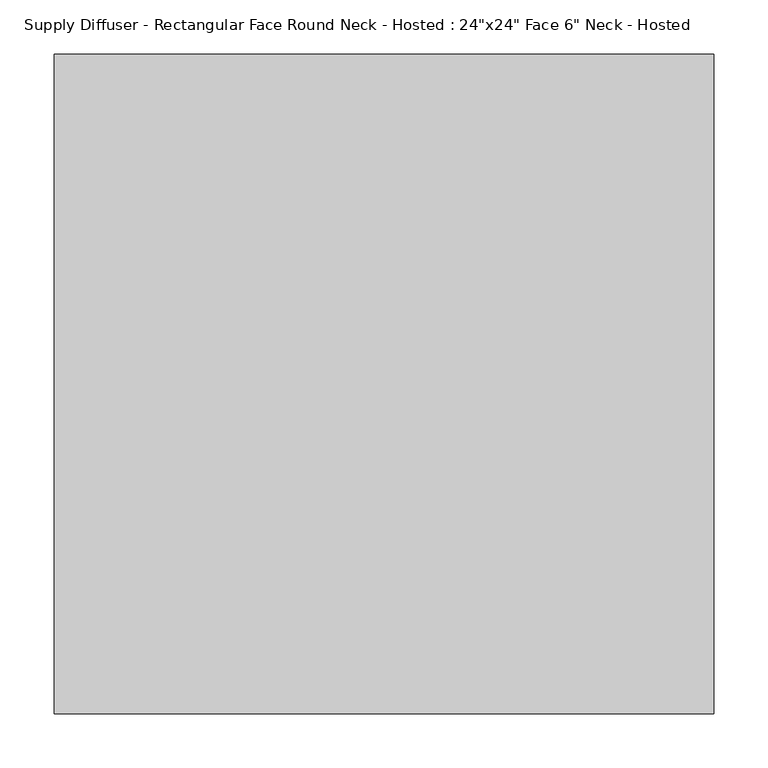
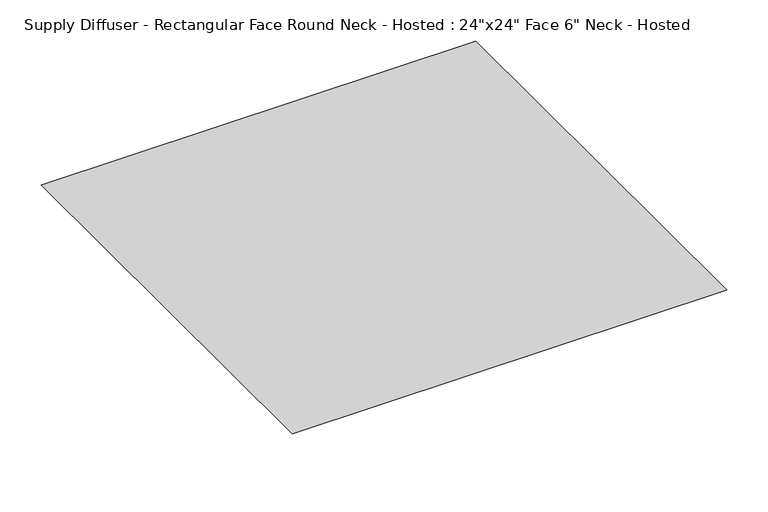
"""IFC4 building model written with IfcOpenShell, lengths in millimetres: air terminal geometry."""

from ifc_helpers import new_model, si_unit, frame, origin, place, context, project, spatial, circle_curve, source, transform, mapped, element, save
from ifc_brep_helpers import plane_surface, cylinder_surface, advanced_brep


def air_terminal_52af7c74(model_context):
    return source(origin(), model_context, "Body", "AdvancedBrep", [
        advanced_brep(
        [(76.2, 76.2, -28.575), (76.2, 0.0, -28.575), (0.0, 76.2, -28.575), (76.2, -76.2, -28.575), (0.0, -76.2, -28.575), (-76.2, -76.2, -28.575), (-76.2, 0.0, -28.575), (-76.2, 76.2, -28.575), (304.8, 304.8, 0.0), (-304.8, 304.8, 0.0), (-304.8, -304.8, 0.0), (304.8, -304.8, 0.0), (-76.2, 0.0, -53.975), (76.2, 0.0, -53.975)],
        [
            (0, 1),
            (1, 2, circle_curve(frame((0.0, 0.0, -28.575), z_axis=(0.0, 0.0, 1.0), x_axis=(1.0, 0.0, 0.0)), 76.2)),
            (2, 0),
            (1, 3),
            (3, 4),
            (4, 1, circle_curve(frame((0.0, 0.0, -28.575), z_axis=(0.0, 0.0, 1.0), x_axis=(1.0, 0.0, 0.0)), 76.2)),
            (4, 5),
            (5, 6),
            (6, 4, circle_curve(frame((0.0, 0.0, -28.575), z_axis=(0.0, 0.0, 1.0), x_axis=(1.0, 0.0, 0.0)), 76.2)),
            (6, 7),
            (7, 2),
            (2, 6, circle_curve(frame((0.0, 0.0, -28.575), z_axis=(0.0, 0.0, 1.0), x_axis=(1.0, 0.0, 0.0)), 76.2)),
            (8, 9),
            (9, 10),
            (10, 11),
            (11, 8),
            (11, 3),
            (0, 8),
            (10, 5),
            (9, 7),
            (12, 13, circle_curve(frame((0.0, 0.0, -53.975), z_axis=(0.0, 0.0, -1.0), x_axis=(1.0, 0.0, 0.0)), 76.2)),
            (13, 12, circle_curve(frame((0.0, 0.0, -53.975), z_axis=(0.0, 0.0, -1.0), x_axis=(1.0, 0.0, 0.0)), 76.2)),
            (13, 1),
            (6, 12),
        ],
        [
            plane_surface(frame((0.0, 0.0, -28.575), z_axis=(0.0, 0.0, -1.0), x_axis=(-1.0, 0.0, 0.0))),
            plane_surface(frame((0.0, 0.0, 0.0), z_axis=(0.0, 0.0, 1.0), x_axis=(-1.0, 0.0, 0.0))),
            plane_surface(frame((304.8, 0.0, 0.0), z_axis=(0.12403473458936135, 0.0, -0.9922778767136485), x_axis=(0.0, -1.0, 0.0))),
            plane_surface(frame((0.0, -304.8, 0.0), z_axis=(0.0, -0.12403473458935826, -0.992277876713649), x_axis=(-1.0, 0.0, 0.0))),
            plane_surface(frame((-304.8, 0.0, 0.0), z_axis=(-0.12403473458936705, 0.0, -0.9922778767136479), x_axis=(0.0, 1.0, 0.0))),
            plane_surface(frame((0.0, 304.8, 0.0), z_axis=(0.0, 0.12403473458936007, -0.9922778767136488), x_axis=(1.0, 0.0, 0.0))),
            plane_surface(frame((76.2, 0.0, -53.975), z_axis=(0.0, 0.0, -1.0), x_axis=(0.0, -1.0, 0.0))),
            cylinder_surface(frame((0.0, 0.0, -53.975), z_axis=(0.0, 0.0, 1.0), x_axis=(1.0, 0.0, 0.0)), 76.2),
        ],
        [
            (0, [[1, 2, 3]]),
            (0, [[4, 5, 6]]),
            (0, [[7, 8, 9]]),
            (0, [[10, 11, 12]]),
            (1, [[13, 14, 15, 16]]),
            (2, [[-16, 17, -4, -1, 18]]),
            (3, [[-15, 19, -7, -5, -17]]),
            (4, [[-14, 20, -10, -8, -19]]),
            (5, [[-13, -18, -3, -11, -20]]),
            (6, [[21, 22]]),
            (7, [[-22, 23, -6, -9, 24]]),
            (7, [[-21, -24, -12, -2, -23]]),
        ],
    ),
    ])


if __name__ == "__main__":
    model = new_model("IFC4")
    model_context = context("Model", 3, world=origin())
    ifc_project = project(units=[si_unit("LENGTHUNIT", "METRE", prefix="MILLI")], contexts=[model_context])
    site = spatial("IfcSite", under=ifc_project)
    building = spatial("IfcBuilding", under=site)
    placement = place(None, origin())
    air_terminal_shape = air_terminal_52af7c74(model_context)
    element("IfcAirTerminal", 1, ObjectType="Supply Diffuser - Rectangular Face Round Neck - Hosted : 24\"x24\" Face 6\" Neck - Hosted", at=placement, inside=building, context=model_context, shape_type="MappedRepresentation", body=[
        mapped(air_terminal_shape, transform((0.0, 0.0, 0.0), x_axis=(1.0, 0.0, 0.0), y_axis=(0.0, 1.0, 0.0), z_axis=(0.0, 0.0, 1.0))),
    ])
    save(model, "model.ifc")
